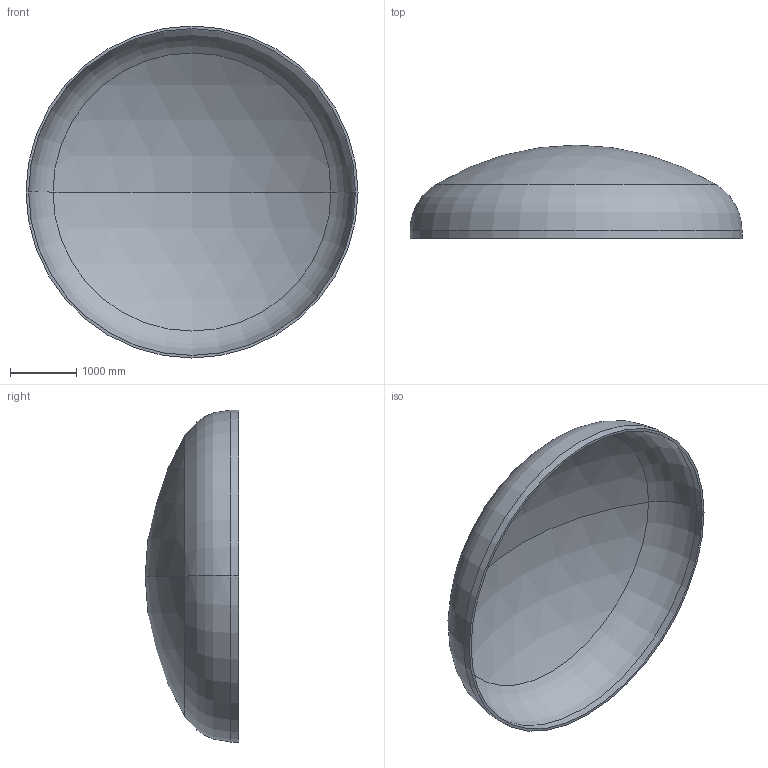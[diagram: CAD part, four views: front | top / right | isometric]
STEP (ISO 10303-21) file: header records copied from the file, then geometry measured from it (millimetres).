
FILE_DESCRIPTION (( 'STEP AP203' ), '1' );
FILE_NAME ('DIN 28013 Korbbogenform_-_Boden DIN 28013 - 5000 x 120 - I - s=39.step', '2016-07-02T00:26:45', ( '' ), ( '' ), 'SwSTEP 2.0', 'SolidWorks 2013', '' );
FILE_SCHEMA (( 'CONFIG_CONTROL_DESIGN' ));
Length unit declared in the file: millimetre
Products named in the file (1): DIN 28013 Korbbogenform_-_Boden DIN 28013 - 5000 x 120 - I - s=39
Bounding box: 5000 x 1407.02 x 5000 mm (x, y, z)
Volume: 1122635881.9 mm3; surface area: 58182066.8 mm2
Topology: 1 solids, 1 shells, 13 faces, 24 edges, 14 vertices
Faces by surface type: torus 4, cylinder 4, sphere 4, plane 1
Entity records: 407 total; most frequent: DIRECTION 72, CARTESIAN_POINT 52, ORIENTED_EDGE 48, AXIS2_PLACEMENT_3D 34, EDGE_CURVE 24, CIRCLE 20, VERTEX_POINT 14, EDGE_LOOP 14
